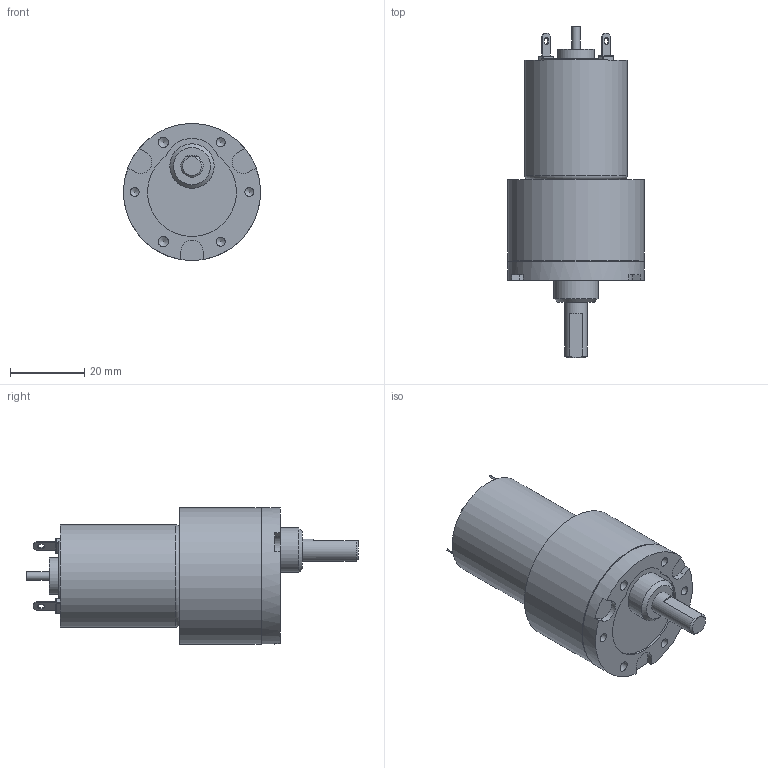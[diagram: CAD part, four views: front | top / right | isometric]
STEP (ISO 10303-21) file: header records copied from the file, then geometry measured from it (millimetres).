
FILE_DESCRIPTION((''),'2;1');
FILE_NAME('C:\Documents and Settings\SSEGAWA\デスクトップ\TP-2732D-KS-4.STP','2013-07-01T13:30:12',('SSEGAWA'),(''),'Autodesk Inventor 2010','Autodesk Inventor 2010','');
FILE_SCHEMA(('CONFIG_CONTROL_DESIGN'));
Length unit declared in the file: millimetre
Products named in the file (3): tp_2732def_ks_4; ks_4; tp_2732d,e,f
Assembly tree (2 placements, depth 2):
  tp_2732def_ks_4
    ks_4
    tp_2732d,e,f
Bounding box: 37 x 89.7 x 37 mm (x, y, z)
Volume: 49615.6 mm3; surface area: 10895.9 mm2
Topology: 3 solids, 3 shells, 162 faces, 364 edges, 233 vertices
Faces by surface type: plane 95, cylinder 36, bspline 25, torus 4, cone 2
Full cylindrical faces by diameter (mm): 2 x2, 2.305 x2, 2.5 x5, 6 x1, 9 x2, 10 x2, 12 x1, 19 x1, 26.7 x1, 27.7 x1, 36.6 x1, 37 x2
Entity records: 4421 total; most frequent: CARTESIAN_POINT 1013, DIRECTION 695, ORIENTED_EDGE 604, EDGE_CURVE 302, AXIS2_PLACEMENT_3D 253, EDGE_LOOP 233, VERTEX_POINT 213, VECTOR 189
